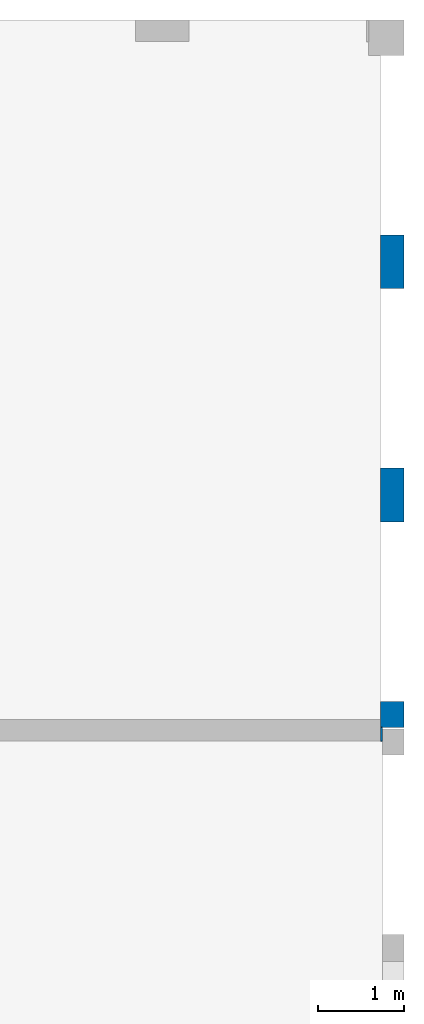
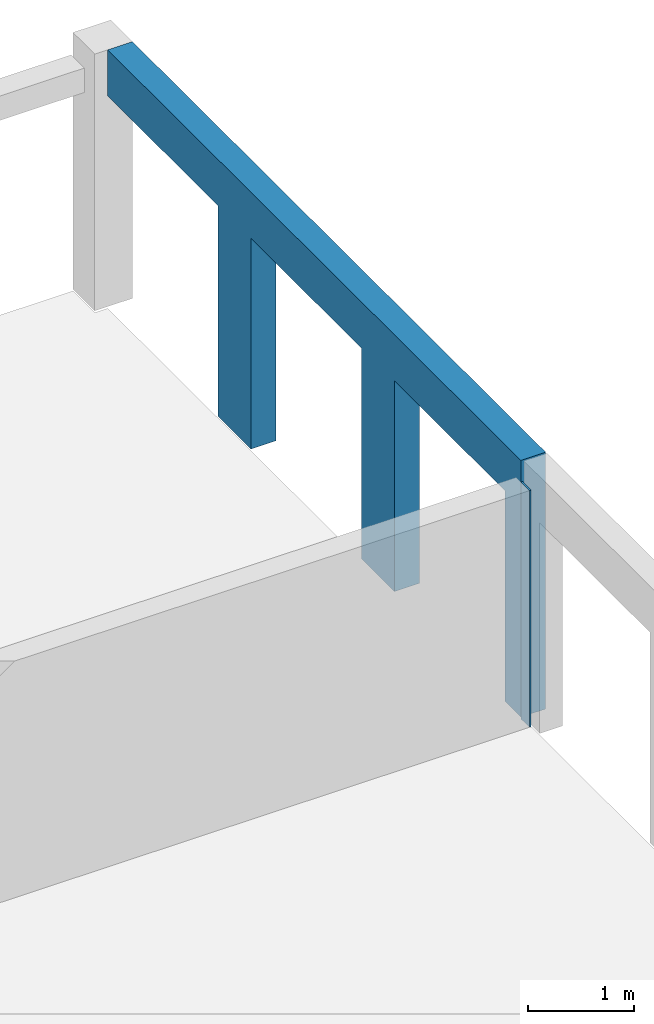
# One storey, part 8 of 12: 2 walls, 3 openings.
"""IFC2X3 building model written with IfcOpenShell, lengths in millimetres."""

from ifc_helpers import new_model, entity, si_unit, converted_unit, derived_unit, direction, frame, frame_2d, origin, place, context, subcontext, project, spatial, rectangle, extrude, material, layer, layer_set, layer_usage, type_object, element, save


model = new_model("IFC2X3")

# Units and contexts
model_context = context("Model", 3, precision=0.01, world=origin(), true_north=direction((6.12303176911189e-17, 1.0)))
body_context = subcontext(model_context, "Body", "Model", "MODEL_VIEW")
ifc_project = project(units=[si_unit("LENGTHUNIT", "METRE", prefix="MILLI"), si_unit("AREAUNIT", "SQUARE_METRE"), si_unit("VOLUMEUNIT", "CUBIC_METRE"), converted_unit("PLANEANGLEUNIT", "DEGREE", entity("IfcRatioMeasure", 0.0174532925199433), si_unit("PLANEANGLEUNIT", "RADIAN"), dimensions=[0, 0, 0, 0, 0, 0, 0]), si_unit("MASSUNIT", "GRAM", prefix="KILO"), derived_unit("MASSDENSITYUNIT", [(si_unit("MASSUNIT", "GRAM", prefix="KILO"), 1), (si_unit("LENGTHUNIT", "METRE"), -3)]), si_unit("TIMEUNIT", "SECOND"), si_unit("FREQUENCYUNIT", "HERTZ"), si_unit("THERMODYNAMICTEMPERATUREUNIT", "DEGREE_CELSIUS"), derived_unit("THERMALTRANSMITTANCEUNIT", [(si_unit("MASSUNIT", "GRAM", prefix="KILO"), 1), (si_unit("THERMODYNAMICTEMPERATUREUNIT", "KELVIN"), -1), (si_unit("TIMEUNIT", "SECOND"), -3)]), derived_unit("VOLUMETRICFLOWRATEUNIT", [(si_unit("LENGTHUNIT", "METRE"), 3), (si_unit("TIMEUNIT", "SECOND"), -1)]), si_unit("ELECTRICCURRENTUNIT", "AMPERE"), si_unit("ELECTRICVOLTAGEUNIT", "VOLT"), si_unit("POWERUNIT", "WATT"), si_unit("FORCEUNIT", "NEWTON", prefix="KILO"), si_unit("ILLUMINANCEUNIT", "LUX"), si_unit("LUMINOUSFLUXUNIT", "LUMEN"), si_unit("LUMINOUSINTENSITYUNIT", "CANDELA"), derived_unit("USERDEFINED", [(si_unit("MASSUNIT", "GRAM", prefix="KILO"), -1), (si_unit("LENGTHUNIT", "METRE"), -2), (si_unit("TIMEUNIT", "SECOND"), 3), (si_unit("LUMINOUSFLUXUNIT", "LUMEN"), 1)]), derived_unit("LINEARVELOCITYUNIT", [(si_unit("LENGTHUNIT", "METRE"), 1), (si_unit("TIMEUNIT", "SECOND"), -1)]), si_unit("PRESSUREUNIT", "PASCAL"), derived_unit("USERDEFINED", [(si_unit("LENGTHUNIT", "METRE"), -2), (si_unit("MASSUNIT", "GRAM", prefix="KILO"), 1), (si_unit("TIMEUNIT", "SECOND"), -2)])], contexts=[model_context])

# Site, building, storey
site_placement = place(None, origin())
site = spatial("IfcSite", under=ifc_project, at=site_placement, Name="Default", CompositionType="ELEMENT")
building_placement = place(site_placement, origin())
building = spatial("IfcBuilding", under=site, at=building_placement, Name="niet gebruiken", CompositionType="ELEMENT")
storey_placement = place(building_placement, frame((0.0, 0.0, 18540.0)))
storey = spatial("IfcBuildingStorey", under=building, at=storey_placement, Name="06 zesde verdieping", CompositionType="ELEMENT", Elevation=18540.0)

# Wall, openings
ifc_material_1 = material(Name="NLRS_f2_beton prefab")
ifc_layer_1 = layer(ifc_material_1, 270.0)
ifc_layer_set_1 = layer_set([ifc_layer_1], Name="Basic Wall:NLRS_21.21_WA_beton prefab d=270_gen")
ifc_layer_usage_1 = layer_usage(ifc_layer_set_1, "AXIS2", "NEGATIVE", 135.0)
wall_type_1 = type_object("IfcWallType", Name="Basic Wall:NLRS_21.21_WA_beton prefab d=270_gen", PredefinedType="STANDARD", material=ifc_layer_set_1)
wall_1_placement = place(storey_placement, frame((105265.0, 52846.0, -70.0), z_axis=(0.0, 0.0, 1.0), x_axis=(0.0, -1.0, 0.0)))
wall_1 = element("IfcWallStandardCase", 1, at=wall_1_placement, inside=storey, type_object=wall_type_1, material=ifc_layer_usage_1, Name="Basic Wall:NLRS_21.21_WA_beton prefab d=270_gen", ObjectType="Basic Wall:NLRS_21.21_WA_beton prefab d=270_gen", context=body_context, shape_type="SweptSolid", body=[
    extrude(rectangle(XDim=7780.00000000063, YDim=270.000000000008, at=frame_2d((3890.00000000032, 0.0), x_axis=(-1.0, 0.0))), origin(), (0.0, 0.0, 1.0), 2949.99999999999),
])
opening_1_placement = place(wall_1_placement, origin())
element("IfcOpeningElement", 2, at=opening_1_placement, cuts=wall_1, Name="Basic Wall:NLRS_21.21_WA_beton prefab d=270_gen", ObjectType="Opening", context=body_context, shape_type="SweptSolid", body=[
    extrude(rectangle(XDim=2420.0, YDim=2080.0, at=frame_2d((0.0, 2.1600499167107e-12), x_axis=(0.0, 1.0))), frame((1040.0, -1389.0, 1210.0), z_axis=(0.0, 1.0, 0.0), x_axis=(-1.0, 0.0, 0.0)), (0.0, 0.0, 1.0), 3048.0),
])
opening_2_placement = place(wall_1_placement, origin())
element("IfcOpeningElement", 3, at=opening_2_placement, cuts=wall_1, Name="Basic Wall:NLRS_21.21_WA_beton prefab d=270_gen", ObjectType="Opening", context=body_context, shape_type="SweptSolid", body=[
    extrude(rectangle(XDim=2420.0, YDim=2080.0, at=frame_2d((0.0, 2.1600499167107e-12), x_axis=(0.0, 1.0))), frame((3740.0, -1389.0, 1210.0), z_axis=(0.0, 1.0, 0.0), x_axis=(-1.0, 0.0, 0.0)), (0.0, 0.0, 1.0), 3048.0),
])
opening_3_placement = place(wall_1_placement, origin())
element("IfcOpeningElement", 4, at=opening_3_placement, cuts=wall_1, Name="Basic Wall:NLRS_21.21_WA_beton prefab d=270_gen", ObjectType="Opening", context=body_context, shape_type="SweptSolid", body=[
    extrude(rectangle(XDim=2420.0, YDim=2080.0, at=frame_2d((0.0, 2.1600499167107e-12), x_axis=(0.0, 1.0))), frame((6440.0, -1389.0, 1210.0), z_axis=(0.0, 1.0, 0.0), x_axis=(-1.0, 0.0, 0.0)), (0.0, 0.0, 1.0), 3048.0),
])

# Wall
ifc_material_2 = material(Name="NLRS_f2_beton ihwg")
ifc_layer_2 = layer(ifc_material_2, 160.0)
ifc_layer_set_2 = layer_set([ifc_layer_2], Name="Basic Wall:NLRS_22.21_WA_beton ihwg d=160_gen")
ifc_layer_usage_2 = layer_usage(ifc_layer_set_2, "AXIS2", "NEGATIVE", 80.0)
wall_type_2 = type_object("IfcWallType", Name="Basic Wall:NLRS_22.21_WA_beton ihwg d=160_gen", PredefinedType="STANDARD", material=ifc_layer_set_2)
wall_2_placement = place(storey_placement, frame((105130.0, 44986.0, -90.0)))
element("IfcWallStandardCase", 5, at=wall_2_placement, inside=storey, type_object=wall_type_2, material=ifc_layer_usage_2, Name="Basic Wall:NLRS_22.21_WA_beton ihwg d=160_gen", ObjectType="Basic Wall:NLRS_22.21_WA_beton ihwg d=160_gen", context=body_context, shape_type="SweptSolid", body=[
    extrude(rectangle(XDim=19.9999999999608, YDim=159.999999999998, at=frame_2d((9.9999999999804, 0.0), x_axis=(-1.0, 0.0))), origin(), (0.0, 0.0, 1.0), 2719.99999999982),
])

save(model, "model.ifc")
